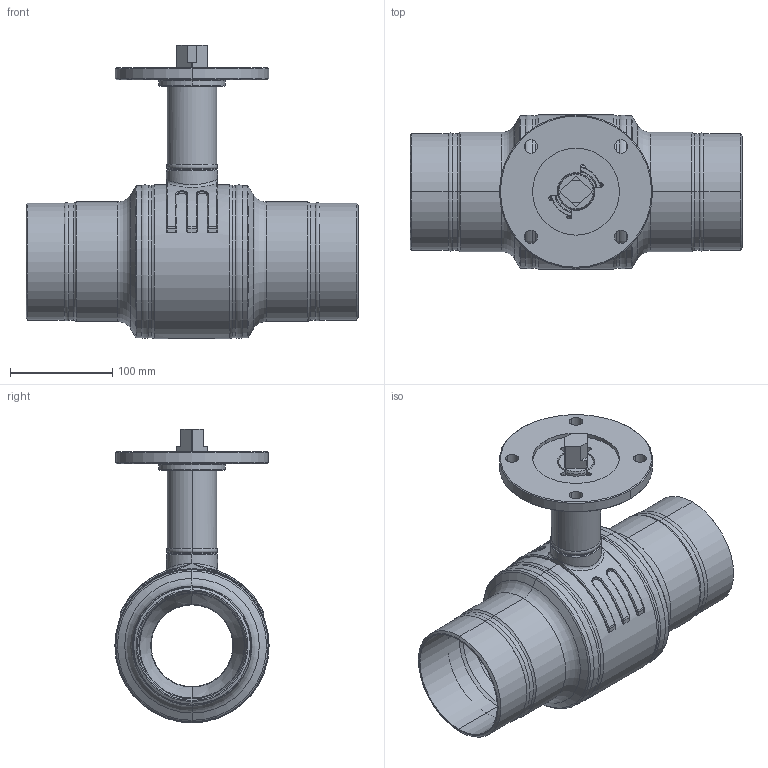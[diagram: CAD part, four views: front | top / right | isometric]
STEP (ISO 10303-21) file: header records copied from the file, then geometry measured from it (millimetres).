
FILE_DESCRIPTION((''),'2;1');
FILE_NAME('KHMO-S-R-H-100R080P04_SW0001','2025-04-23T11:05:14',('jeitlers'),('KLINGER'),'CREO PARAMETRIC BY PTC INC, 2023014','CREO PARAMETRIC BY PTC INC, 2023014','');
FILE_SCHEMA(('CONFIG_CONTROL_DESIGN'));
Length unit declared in the file: millimetre
Products named in the file (1): KHMO-S-R-H-100R080P04_SW0001
Bounding box: 325 x 151 x 287.5 mm (x, y, z)
Volume: 1678254.7 mm3; surface area: 429122 mm2
Topology: 3 solids, 3 shells, 469 faces, 1093 edges, 654 vertices
Faces by surface type: cylinder 162, torus 106, cone 90, plane 83, bspline 28
Entity records: 20374 total; most frequent: CARTESIAN_POINT 9373, DIRECTION 2531, ORIENTED_EDGE 2186, EDGE_CURVE 1093, AXIS2_PLACEMENT_3D 1079, VERTEX_POINT 654, CIRCLE 638, EDGE_LOOP 511
